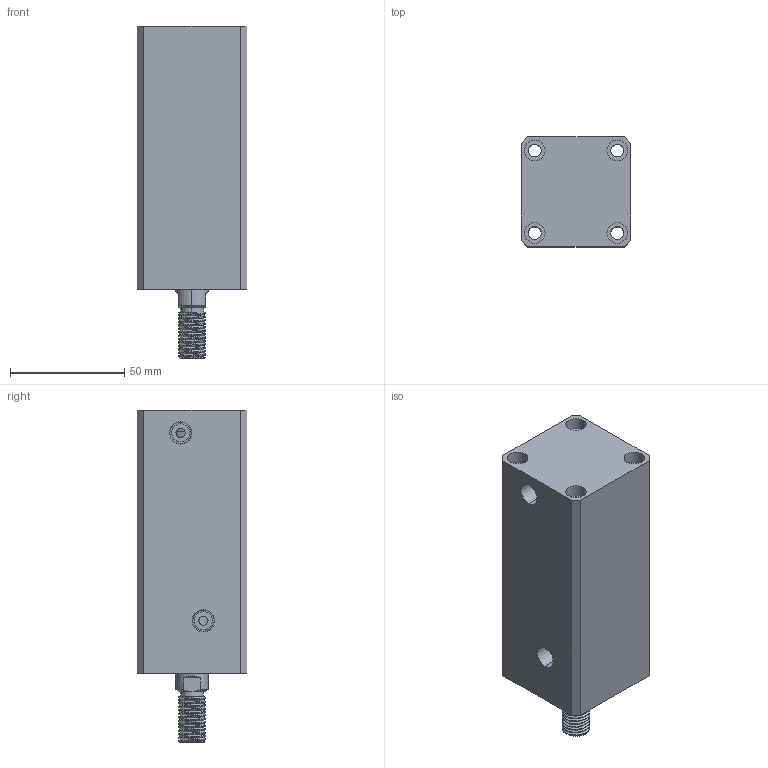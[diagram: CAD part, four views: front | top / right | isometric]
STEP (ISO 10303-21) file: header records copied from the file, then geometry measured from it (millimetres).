
FILE_DESCRIPTION (( 'STEP AP214' ), '1' );
FILE_NAME ('chtb-sd25x70w_asm.STEP', '2018-05-22T09:43:44', ( 'Windows' ), ( 'Microsoft' ), 'SwSTEP 2.0', 'SolidWorks 2015', '' );
FILE_SCHEMA (( 'AUTOMOTIVE_DESIGN' ));
Length unit declared in the file: millimetre
Products named in the file (4): CHTB-SD25X70WHSG; CHTB-SD25X70NBT; CHTB-25QG; chtb-sd25x70w_asm
Assembly tree (3 placements, depth 2):
  chtb-sd25x70w_asm
    CHTB-25QG
    CHTB-SD25X70NBT
    CHTB-SD25X70WHSG
Bounding box: 48 x 48 x 145 mm (x, y, z)
Volume: 227791.8 mm3; surface area: 56810.7 mm2
Topology: 3 solids, 3 shells, 178 faces, 474 edges, 323 vertices
Faces by surface type: cylinder 113, plane 39, cone 14, bspline 12
Entity records: 10610 total; most frequent: CARTESIAN_POINT 6273, ORIENTED_EDGE 940, DIRECTION 778, EDGE_CURVE 470, VERTEX_POINT 323, AXIS2_PLACEMENT_3D 317, EDGE_LOOP 217, FACE_OUTER_BOUND 178
